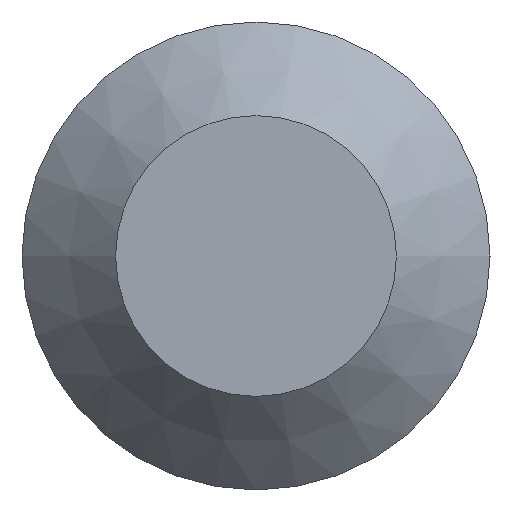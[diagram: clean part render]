
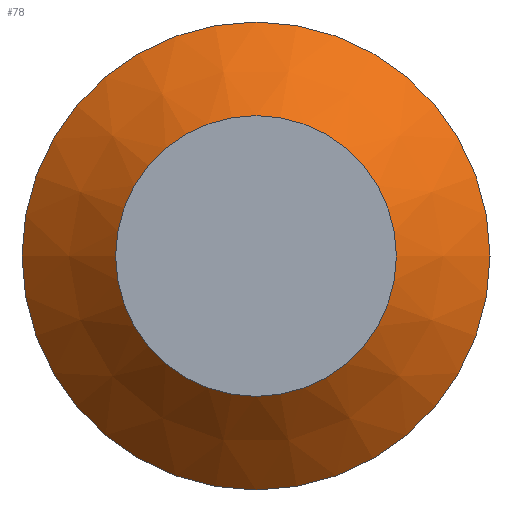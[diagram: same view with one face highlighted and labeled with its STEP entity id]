
A CAD part, left-side view. The second image highlights one B-rep face of the part: STEP entity #78.
In plain terms, the highlighted conical face has half-angle 45 degrees and reference radius 1 mm.
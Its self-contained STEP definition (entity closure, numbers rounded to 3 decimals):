
#21=FACE_OUTER_BOUND('',#26,.T.);
#26=EDGE_LOOP('',(#67,#68,#69,#70,#71));
#30=LINE('',#160,#33);
#33=VECTOR('',#138,1.);
#37=CIRCLE('',#108,1.25);
#38=CIRCLE('',#109,1.25);
#39=CIRCLE('',#112,0.75);
#43=VERTEX_POINT('',#151);
#44=VERTEX_POINT('',#153);
#45=VERTEX_POINT('',#158);
#51=EDGE_CURVE('',#44,#43,#37,.T.);
#52=EDGE_CURVE('',#43,#44,#38,.T.);
#53=EDGE_CURVE('',#45,#45,#39,.T.);
#54=EDGE_CURVE('',#45,#44,#30,.T.);
#67=ORIENTED_EDGE('',*,*,#53,.T.);
#68=ORIENTED_EDGE('',*,*,#54,.T.);
#69=ORIENTED_EDGE('',*,*,#51,.T.);
#70=ORIENTED_EDGE('',*,*,#52,.T.);
#71=ORIENTED_EDGE('',*,*,#54,.F.);
#74=CONICAL_SURFACE('',#111,1.,0.785);
#78=ADVANCED_FACE('',(#21),#74,.T.);
#108=AXIS2_PLACEMENT_3D('',#154,#128,#129);
#109=AXIS2_PLACEMENT_3D('',#155,#130,#131);
#111=AXIS2_PLACEMENT_3D('',#157,#134,#135);
#112=AXIS2_PLACEMENT_3D('',#159,#136,#137);
#128=DIRECTION('center_axis',(-1.,0.,0.));
#129=DIRECTION('ref_axis',(0.,-1.,0.));
#130=DIRECTION('center_axis',(-1.,0.,0.));
#131=DIRECTION('ref_axis',(0.,-1.,0.));
#134=DIRECTION('center_axis',(1.,0.,0.));
#135=DIRECTION('ref_axis',(0.,-1.,0.));
#136=DIRECTION('center_axis',(1.,0.,0.));
#137=DIRECTION('ref_axis',(0.,-1.,0.));
#138=DIRECTION('',(0.707,0.707,0.));
#151=CARTESIAN_POINT('',(-5.5,-1.25,0.));
#153=CARTESIAN_POINT('',(-5.5,1.25,0.));
#154=CARTESIAN_POINT('Origin',(-5.5,0.,0.));
#155=CARTESIAN_POINT('Origin',(-5.5,0.,0.));
#157=CARTESIAN_POINT('Origin',(-5.75,0.,0.));
#158=CARTESIAN_POINT('',(-6.,0.75,0.));
#159=CARTESIAN_POINT('Origin',(-6.,0.,0.));
#160=CARTESIAN_POINT('',(-5.75,1.,0.));
